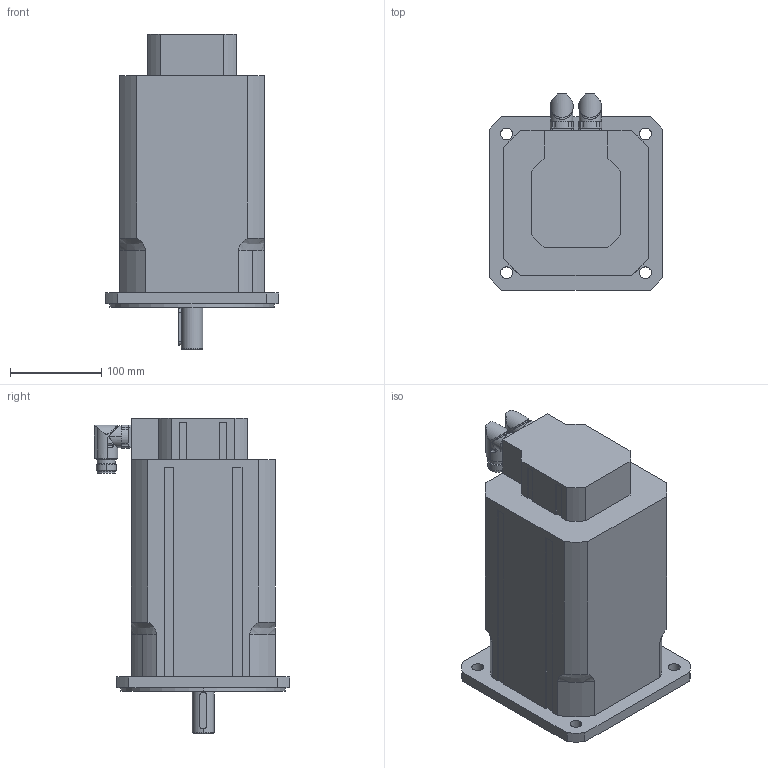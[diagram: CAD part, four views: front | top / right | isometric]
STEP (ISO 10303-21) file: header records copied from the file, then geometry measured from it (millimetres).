
FILE_DESCRIPTION(('STEP AP203'),'2;1');
FILE_NAME('MT6-1900_B.stp','2006-08-28T20:23:21',(''),(''),'2005.2.102','THINKDESIGN','');
FILE_SCHEMA(('CONFIG_CONTROL_DESIGN'));
Length unit declared in the file: millimetre
Bounding box: 190 x 214.5 x 345 mm (x, y, z)
Volume: 6760396.8 mm3; surface area: 271221.2 mm2
Topology: 3 solids, 3 shells, 258 faces, 685 edges, 443 vertices
Faces by surface type: cylinder 112, plane 108, bspline 38
Full cylindrical faces by diameter (mm): 20 x2
Entity records: 9380 total; most frequent: CARTESIAN_POINT 2860, ORIENTED_EDGE 1366, DIRECTION 1343, EDGE_CURVE 683, AXIS2_PLACEMENT_3D 500, VERTEX_POINT 443, VECTOR 343, LINE 343
